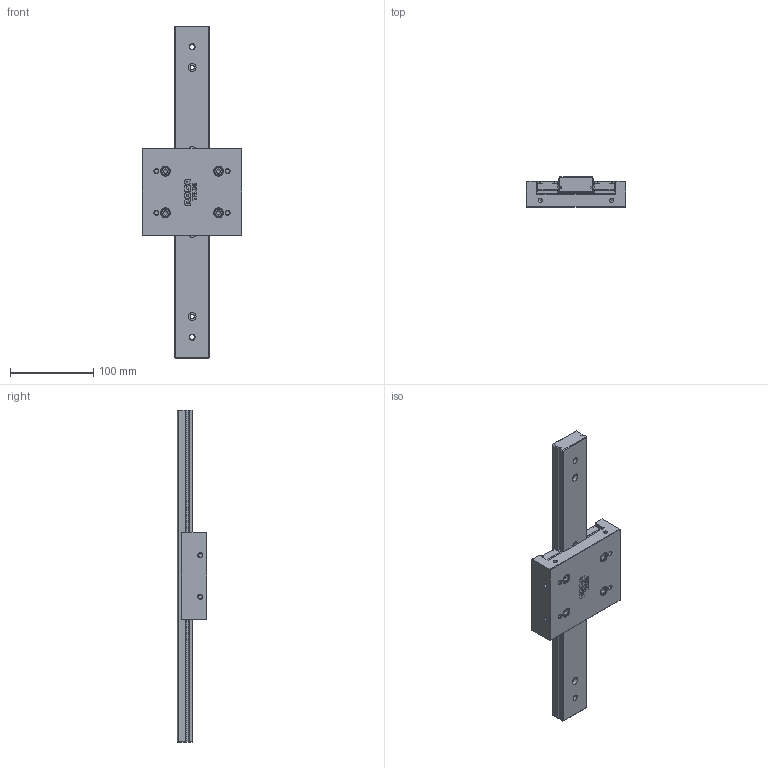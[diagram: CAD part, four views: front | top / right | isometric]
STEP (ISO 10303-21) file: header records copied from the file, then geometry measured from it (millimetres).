
FILE_DESCRIPTION(/* description */ ('TAVOLA TRKD06 L= 400 mm'),/* implementation_level */ '2;1');
FILE_NAME(/* name */ 'TRKD060400-00.stp',/* time_stamp */ '2024-01-25T10:23:56+01:00',/* author */ ('Rosa Sistemi'),/* organization */ (''),/* preprocessor_version */ 'ST-DEVELOPER v20',/* originating_system */ 'Autodesk Inventor 2024',/* authorisation */ '');
FILE_SCHEMA (('AUTOMOTIVE_DESIGN { 1 0 10303 214 3 1 1 }'));
Length unit declared in the file: millimetre
Products named in the file (2): TRKD060400-00; TRKD060400-00_1
Assembly tree (1 placements, depth 2):
  TRKD060400-00
    TRKD060400-00_1
Bounding box: 120 x 36 x 400 mm (x, y, z)
Volume: 599661.4 mm3; surface area: 120034.5 mm2
Topology: 13 solids, 13 shells, 677 faces, 1747 edges, 1123 vertices
Faces by surface type: plane 416, cone 88, cylinder 87, bspline 36, sphere 26, torus 24
Full cylindrical faces by diameter (mm): 2 x2, 2.795 x1, 4.134 x4, 4.917 x16, 6 x15, 7 x3, 7.687 x1, 9.5 x4, 9.9 x4, 10 x4, 11 x4
Entity records: 21547 total; most frequent: CARTESIAN_POINT 4552, ORIENTED_EDGE 3366, DIRECTION 3262, EDGE_CURVE 1683, VERTEX_POINT 1123, AXIS2_PLACEMENT_3D 1117, LINE 1028, VECTOR 1028
